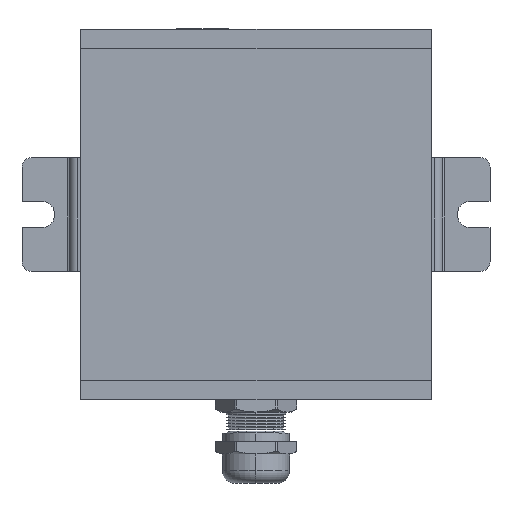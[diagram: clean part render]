
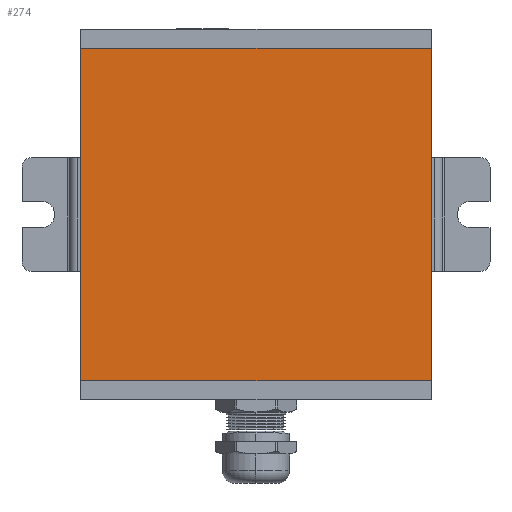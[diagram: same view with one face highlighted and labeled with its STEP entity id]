
A CAD part, top view. The second image highlights one B-rep face of the part: STEP entity #274.
In plain terms, the highlighted planar face has unit normal (0, 0, 1).
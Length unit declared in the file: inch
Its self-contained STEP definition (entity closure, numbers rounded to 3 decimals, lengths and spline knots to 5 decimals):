
#112 = CARTESIAN_POINT ( 'NONE',  ( 4.05588, 4.09891, 0.37679 ) ) ;
#274 = ADVANCED_FACE ( 'NONE', ( #4109 ), #9400, .T. ) ;
#473 = DIRECTION ( 'NONE',  ( 0., 1., 0. ) ) ;
#1272 = VECTOR ( 'NONE', #473, 39.37008 ) ;
#1532 = DIRECTION ( 'NONE',  ( -1., 0., 0. ) ) ;
#1598 = LINE ( 'NONE', #112, #4049 ) ;
#1926 = VERTEX_POINT ( 'NONE', #5799 ) ;
#2012 = EDGE_LOOP ( 'NONE', ( #10328, #2645, #7831, #5587 ) ) ;
#2272 = LINE ( 'NONE', #6800, #2813 ) ;
#2645 = ORIENTED_EDGE ( 'NONE', *, *, #9129, .F. ) ;
#2813 = VECTOR ( 'NONE', #1532, 39.37008 ) ;
#3002 = CARTESIAN_POINT ( 'NONE',  ( 6.36778, 4.09891, 0.37679 ) ) ;
#3705 = EDGE_CURVE ( 'NONE', #3847, #10493, #1598, .T. ) ;
#3847 = VERTEX_POINT ( 'NONE', #10804 ) ;
#4030 = CARTESIAN_POINT ( 'NONE',  ( 4.05588, 3.00291, 0.37679 ) ) ;
#4049 = VECTOR ( 'NONE', #9035, 39.37008 ) ;
#4109 = FACE_OUTER_BOUND ( 'NONE', #2012, .T. ) ;
#4704 = AXIS2_PLACEMENT_3D ( 'NONE', #5017, #6748, #11056 ) ;
#5017 = CARTESIAN_POINT ( 'NONE',  ( 6.36778, 4.09891, 0.37679 ) ) ;
#5297 = EDGE_CURVE ( 'NONE', #1926, #6535, #10655, .T. ) ;
#5587 = ORIENTED_EDGE ( 'NONE', *, *, #5611, .F. ) ;
#5611 = EDGE_CURVE ( 'NONE', #3847, #6535, #10515, .T. ) ;
#5799 = CARTESIAN_POINT ( 'NONE',  ( 6.36778, 3.00291, 0.37679 ) ) ;
#6535 = VERTEX_POINT ( 'NONE', #8925 ) ;
#6748 = DIRECTION ( 'NONE',  ( 0., 0., 1. ) ) ;
#6800 = CARTESIAN_POINT ( 'NONE',  ( 6.36778, 3.00291, 0.37679 ) ) ;
#7831 = ORIENTED_EDGE ( 'NONE', *, *, #5297, .T. ) ;
#8480 = VECTOR ( 'NONE', #9909, 39.37008 ) ;
#8925 = CARTESIAN_POINT ( 'NONE',  ( 6.36778, 5.19491, 0.37679 ) ) ;
#9035 = DIRECTION ( 'NONE',  ( 0., -1., 0. ) ) ;
#9129 = EDGE_CURVE ( 'NONE', #1926, #10493, #2272, .T. ) ;
#9400 = PLANE ( 'NONE',  #4704 ) ;
#9909 = DIRECTION ( 'NONE',  ( 1., 0., 0. ) ) ;
#10328 = ORIENTED_EDGE ( 'NONE', *, *, #3705, .T. ) ;
#10450 = CARTESIAN_POINT ( 'NONE',  ( 4.05588, 5.19491, 0.37679 ) ) ;
#10493 = VERTEX_POINT ( 'NONE', #4030 ) ;
#10515 = LINE ( 'NONE', #10450, #8480 ) ;
#10655 = LINE ( 'NONE', #3002, #1272 ) ;
#10804 = CARTESIAN_POINT ( 'NONE',  ( 4.05588, 5.19491, 0.37679 ) ) ;
#11056 = DIRECTION ( 'NONE',  ( 1., 0., 0. ) ) ;
